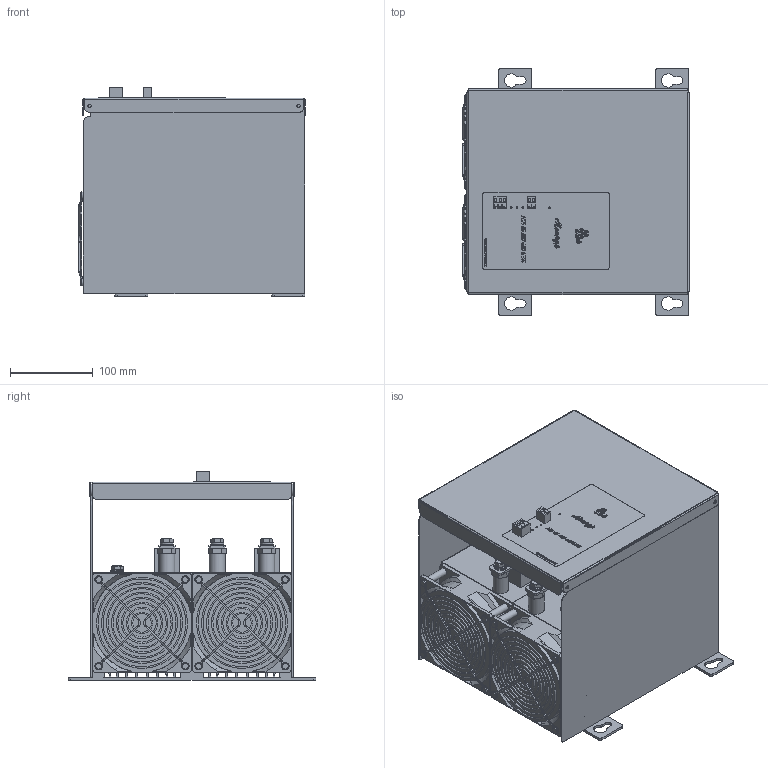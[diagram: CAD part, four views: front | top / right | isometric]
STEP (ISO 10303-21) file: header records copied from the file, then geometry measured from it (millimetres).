
FILE_DESCRIPTION(('STEP AP203'), '1');
FILE_NAME('ÌÒÊ 25-200-480 ÓÕË4', '2025-06-30T12:02:17', (''), ('ÎÎÎ "Ìåàíäð"'), 'C3D Converter', 'C3D Toolkit', '');
FILE_SCHEMA(('CONFIG_CONTROL_DESIGN'));
Length unit declared in the file: millimetre
Assembly tree (9 placements, depth 2):
  (unnamed)
    (unnamed)
    (unnamed)
    (unnamed)  x7
Bounding box: 274 x 300 x 252.5 mm (x, y, z)
Volume: 5152758.7 mm3; surface area: 1654153.9 mm2
Topology: 9 solids, 17 shells, 3707 faces, 10565 edges, 6933 vertices
Faces by surface type: plane 2001, extrusion 958, cylinder 565, torus 97, cone 52, bspline 30, sphere 4
Full cylindrical faces by diameter (mm): 4.2 x4, 4.572 x8, 6.647 x1, 8 x12, 8.002 x6, 8.4 x7, 9 x16, 9.1 x1, 9.8 x1, 11.6 x7, 12.1 x6, 16 x14, 19 x6
Entity records: 141004 total; most frequent: CARTESIAN_POINT 48289, ORIENTED_EDGE 19476, DIRECTION 14450, EDGE_CURVE 9738, VECTOR 7446, LINE 6488, VERTEX_POINT 6484, EDGE_LOOP 3940
